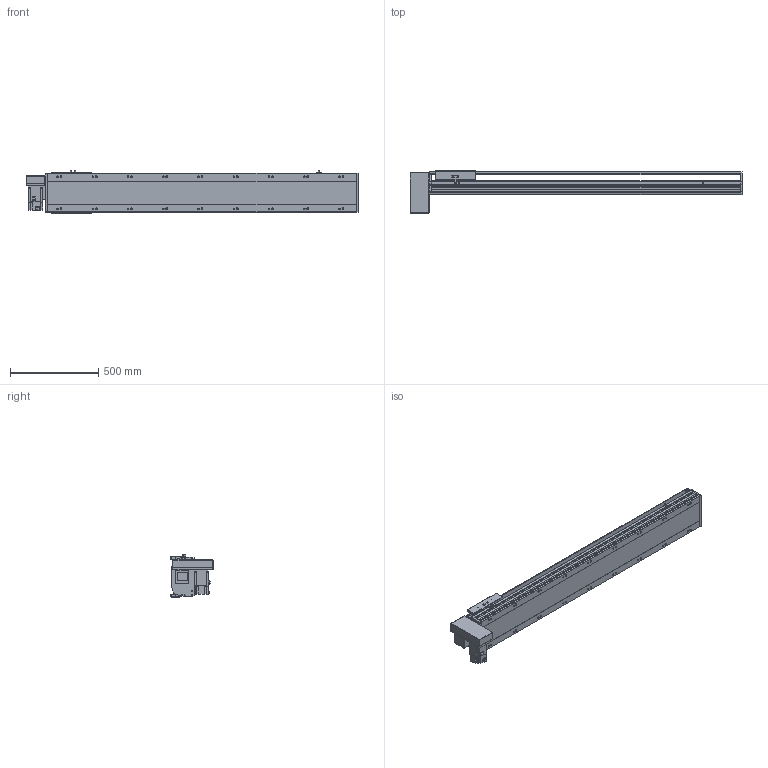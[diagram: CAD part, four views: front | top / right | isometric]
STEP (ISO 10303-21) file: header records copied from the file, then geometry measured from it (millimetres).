
FILE_DESCRIPTION(/* description */ ('STEP AP214'),/* implementation_level */ '2;1');
FILE_NAME(/* name */ 'PBS220-P40-S1400-RD-T75-C1-N(0)',/* time_stamp */ '2022-06-13T02:43:47+02:00',/* author */ ('License CC BY-ND 4.0'),/* organization */ ('CADENAS'),/* preprocessor_version */ 'ST-DEVELOPER v18.102',/* originating_system */ 'PARTsolutions',/* authorisation */ ' ');
FILE_SCHEMA (('AUTOMOTIVE_DESIGN {1 0 10303 214 3 1 1}'));
Length unit declared in the file: millimetre
Products named in the file (7): PBS220-P40-S1400-RD-T75-C1-N(0); PBS220_sensor; PBS220_plant; PBS220_sliser; T75-p1; PBS220T-RD_motors; PBS220-S1400()_body
Assembly tree (8 placements, depth 2):
  PBS220-P40-S1400-RD-T75-C1-N(0)
    PBS220_sensor  x3
    PBS220_plant
    PBS220_sliser
    T75-p1
    PBS220T-RD_motors
    PBS220-S1400()_body
Bounding box: 1884 x 239 x 238.5 mm (x, y, z)
Volume: 26849079.1 mm3; surface area: 2557229.6 mm2
Topology: 8 solids, 8 shells, 926 faces, 2424 edges, 1576 vertices
Faces by surface type: plane 602, cylinder 282, cone 42
Full cylindrical faces by diameter (mm): 2.013 x4, 4.5 x14, 4.917 x4, 6 x7, 6.647 x8, 8 x10, 8.376 x18, 8.5 x18, 10 x6, 14 x18, 38 x2, 40 x1, 70 x1
Entity records: 25941 total; most frequent: CARTESIAN_POINT 4558, DIRECTION 4509, ORIENTED_EDGE 4142, EDGE_CURVE 2071, AXIS2_PLACEMENT_3D 1581, VERTEX_POINT 1432, LINE 1347, VECTOR 1347
